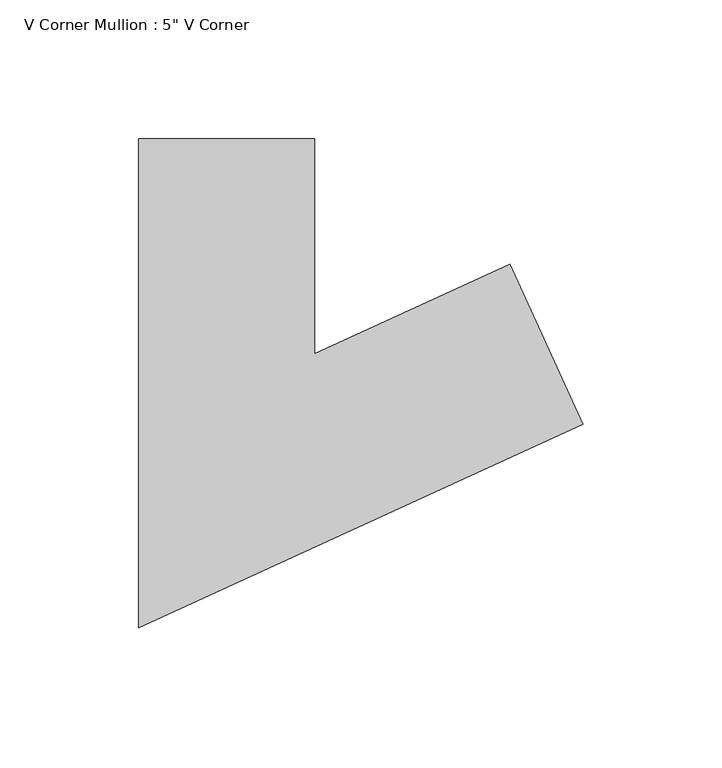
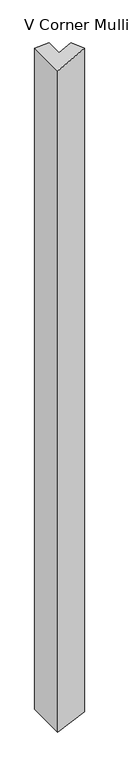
"""IFC4 building model written with IfcOpenShell, lengths in millimetres: member geometry."""

from ifc_helpers import new_model, si_unit, origin, place, context, project, spatial, faceted_brep, source, transform, mapped, element, save


def member_5bba626a(model_context):
    return source(origin(), model_context, "Body", "Brep", [
        faceted_brep([(61.49523, 18.2208415, 2.082317), (87.9205542, -39.5195451, 2.9771164), (87.9205542, -39.5195451, -3093.3418052), (61.49523, 18.2208415, -3092.713805), (-9.0228811, -14.0523047, -0.3055277), (-9.0228811, -14.0523047, -3091.0379357), (-9.0228811, 63.5, -0.3055277), (-9.0228811, 63.5, -3091.0379357), (-72.5228811, 63.5, -2.4557291), (-72.5228811, 63.5, -3089.5288524), (-72.5228811, -112.9476953, -2.4557291), (-72.5228811, -112.9476953, -3089.5288524)], [[[0, 1, 2, 3]], [[4, 0, 3, 5]], [[6, 4, 5, 7]], [[8, 6, 7, 9]], [[10, 8, 9, 11]], [[1, 10, 11, 2]], [[1, 0, 4, 6, 8, 10]], [[2, 11, 9, 7, 5, 3]]]),
    ])


if __name__ == "__main__":
    model = new_model("IFC4")
    model_context = context("Model", 3, world=origin())
    ifc_project = project(units=[si_unit("LENGTHUNIT", "METRE", prefix="MILLI")], contexts=[model_context])
    site = spatial("IfcSite", under=ifc_project)
    building = spatial("IfcBuilding", under=site)
    placement = place(None, origin())
    member_shape = member_5bba626a(model_context)
    element("IfcMember", 1, ObjectType="V Corner Mullion : 5\" V Corner", at=placement, inside=building, context=model_context, shape_type="MappedRepresentation", body=[
        mapped(member_shape, transform((0.0, 0.0, 0.0), x_axis=(1.0, 0.0, 0.0), y_axis=(0.0, 1.0, 0.0), z_axis=(0.0, 0.0, 1.0))),
    ])
    save(model, "model.ifc")
